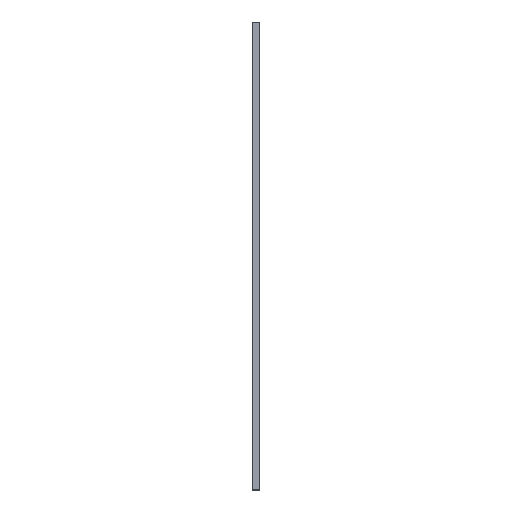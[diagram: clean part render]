
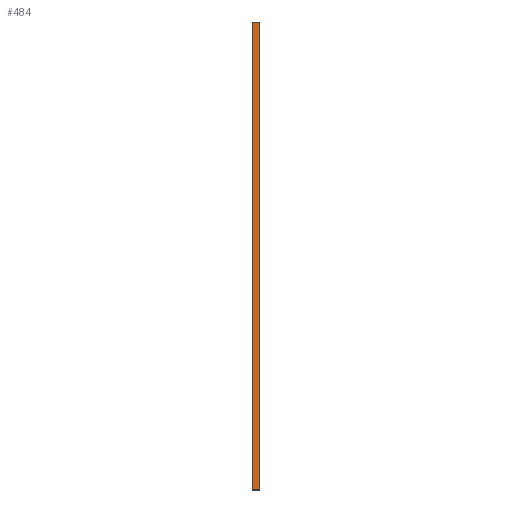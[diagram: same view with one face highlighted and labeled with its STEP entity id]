
A CAD part, left-side view. The second image highlights one B-rep face of the part: STEP entity #484.
In plain terms, the highlighted planar face has unit normal (-1, 0, 0).
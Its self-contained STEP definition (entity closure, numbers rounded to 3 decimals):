
#40 = VERTEX_POINT ( 'NONE', #324 ) ;
#87 = DIRECTION ( 'NONE',  ( 0., 0., 1. ) ) ;
#101 = CARTESIAN_POINT ( 'NONE',  ( -901.5, -20., 50. ) ) ;
#111 = LINE ( 'NONE', #868, #1119 ) ;
#135 = LINE ( 'NONE', #685, #259 ) ;
#140 = VERTEX_POINT ( 'NONE', #609 ) ;
#153 = DIRECTION ( 'NONE',  ( 0., 0., 1. ) ) ;
#234 = VERTEX_POINT ( 'NONE', #447 ) ;
#247 = DIRECTION ( 'NONE',  ( 0., 1., 0. ) ) ;
#255 = CARTESIAN_POINT ( 'NONE',  ( -901.5, -20., -1250. ) ) ;
#259 = VECTOR ( 'NONE', #153, 1000. ) ;
#288 = DIRECTION ( 'NONE',  ( 0., 1., 0. ) ) ;
#301 = CARTESIAN_POINT ( 'NONE',  ( -901.5, -20., -1250. ) ) ;
#324 = CARTESIAN_POINT ( 'NONE',  ( -901.5, 0., -1250. ) ) ;
#404 = EDGE_CURVE ( 'NONE', #40, #140, #111, .T. ) ;
#447 = CARTESIAN_POINT ( 'NONE',  ( -901.5, -20., -1250. ) ) ;
#461 = ORIENTED_EDGE ( 'NONE', *, *, #765, .T. ) ;
#484 = ADVANCED_FACE ( 'NONE', ( #488 ), #985, .T. ) ;
#485 = VERTEX_POINT ( 'NONE', #974 ) ;
#488 = FACE_OUTER_BOUND ( 'NONE', #838, .T. ) ;
#507 = VECTOR ( 'NONE', #288, 1000. ) ;
#543 = LINE ( 'NONE', #101, #507 ) ;
#609 = CARTESIAN_POINT ( 'NONE',  ( -901.5, 0., 50. ) ) ;
#685 = CARTESIAN_POINT ( 'NONE',  ( -901.5, -20., -1250. ) ) ;
#765 = EDGE_CURVE ( 'NONE', #234, #485, #135, .T. ) ;
#784 = EDGE_CURVE ( 'NONE', #234, #40, #940, .T. ) ;
#838 = EDGE_LOOP ( 'NONE', ( #1100, #1111, #461, #1038 ) ) ;
#841 = VECTOR ( 'NONE', #247, 1000. ) ;
#868 = CARTESIAN_POINT ( 'NONE',  ( -901.5, 0., -1250. ) ) ;
#940 = LINE ( 'NONE', #255, #841 ) ;
#974 = CARTESIAN_POINT ( 'NONE',  ( -901.5, -20., 50. ) ) ;
#985 = PLANE ( 'NONE',  #1018 ) ;
#997 = DIRECTION ( 'NONE',  ( -1., 0., 0. ) ) ;
#1018 = AXIS2_PLACEMENT_3D ( 'NONE', #301, #997, #1084 ) ;
#1038 = ORIENTED_EDGE ( 'NONE', *, *, #1124, .T. ) ;
#1084 = DIRECTION ( 'NONE',  ( 0., 0., 1. ) ) ;
#1100 = ORIENTED_EDGE ( 'NONE', *, *, #404, .F. ) ;
#1111 = ORIENTED_EDGE ( 'NONE', *, *, #784, .F. ) ;
#1119 = VECTOR ( 'NONE', #87, 1000. ) ;
#1124 = EDGE_CURVE ( 'NONE', #485, #140, #543, .T. ) ;
